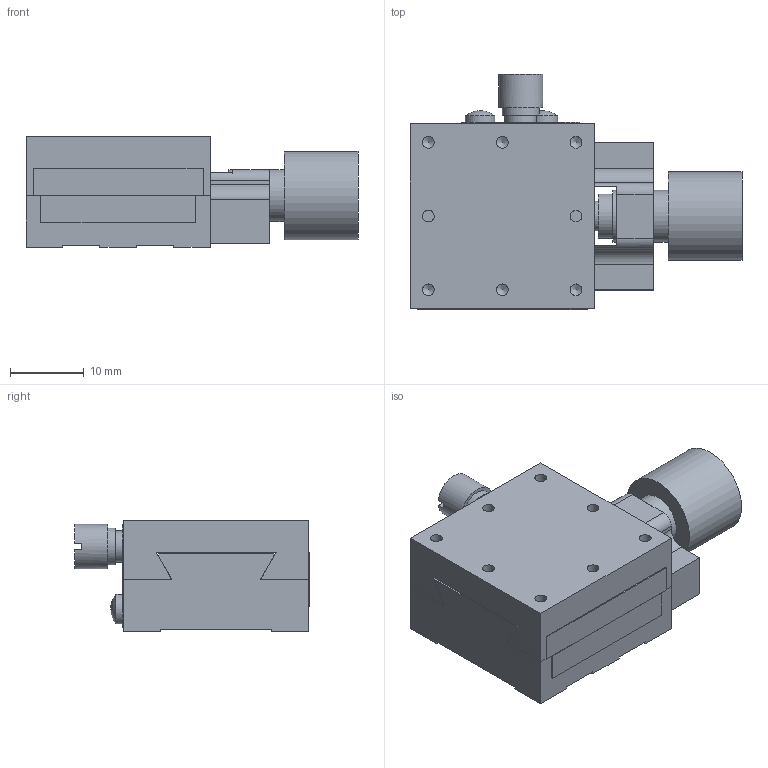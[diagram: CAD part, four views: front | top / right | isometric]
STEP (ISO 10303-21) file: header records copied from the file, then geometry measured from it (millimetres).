
FILE_DESCRIPTION( ( 'STEP AP203' ), '1' );
FILE_NAME( 'C:/3D-Trans/3D_B08-1+090717.step', '2009-07-17T04:00:24', ( ' ' ), ( ' ' ), 'XStep 1.0', ' ', ' ' );
FILE_SCHEMA( ( 'CONFIG_CONTROL_DESIGN' ) );
Length unit declared in the file: millimetre
Products named in the file (2): 1; 2
Bounding box: 45 x 31.85 x 15 mm (x, y, z)
Volume: 10311.2 mm3; surface area: 7526 mm2
Topology: 2 solids, 4 shells, 168 faces, 445 edges, 296 vertices
Faces by surface type: plane 99, cylinder 59, cone 8, sphere 2
Full cylindrical faces by diameter (mm): 1.6 x18, 2 x1, 2.2 x1, 2.5 x4, 3 x4, 3.2 x2, 4 x3, 4.2 x4, 4.3 x1, 4.5 x2, 5 x1, 6 x2, 7 x3, 12 x1
Entity records: 4960 total; most frequent: CARTESIAN_POINT 998, DIRECTION 800, ORIENTED_EDGE 700, EDGE_CURVE 350, AXIS2_PLACEMENT_3D 284, EDGE_LOOP 266, VERTEX_POINT 266, LINE 232
